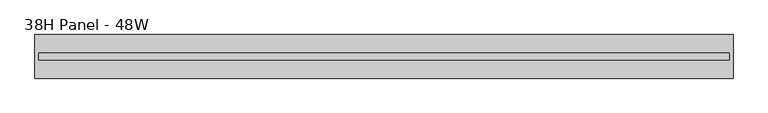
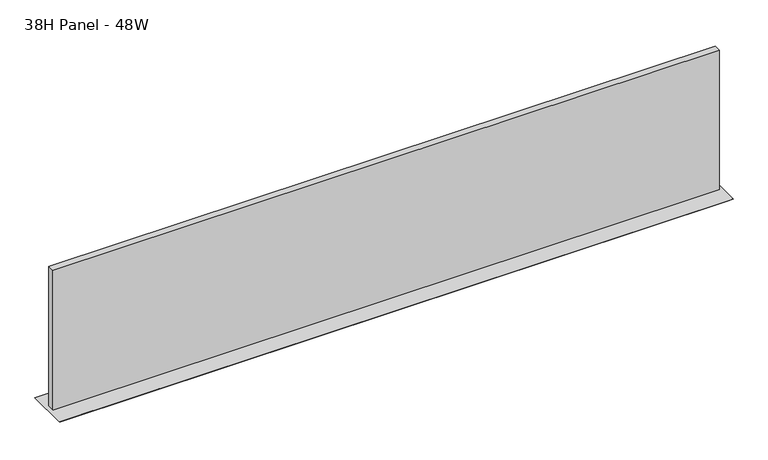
"""IFC4 building model written with IfcOpenShell, lengths in millimetres: furniture geometry, Steelcase - Montage - Tiles - 10H - Frameless Glass Stacker : 38H Panel - 48W."""

from ifc_helpers import new_model, si_unit, frame, origin, place, context, project, spatial, polyline, outline, extrude, faceted_brep, source, transform, mapped, element, save


def furniture_38h_panel_48w_17ceeb11(model_context):
    return source(origin(), model_context, "Body", "SolidModel", [
        faceted_brep([(1219.2, -38.1000015, 958.85), (0.0, -38.1000015, 958.85), (6.35, -31.7500015, 952.5), (1212.85, -31.7500015, 952.5), (6.35, 31.7500015, 952.5), (1212.85, 31.7500015, 952.5), (0.0, 38.1000015, 958.85), (1219.2, 38.1000015, 958.85)], [[[0, 1, 2, 3]], [[3, 2, 4, 5]], [[6, 7, 5, 4]], [[1, 0, 7, 6]], [[2, 1, 6, 4]], [[0, 3, 5, 7]]]),
        extrude(outline(polyline([(1212.4181828, -5.9944001), (6.7818001, -5.9944001), (6.7818001, 5.9944008), (1212.4181828, 5.9944008), (1212.4181828, -5.9944001)])), frame((0.0, 0.0, 958.85), z_axis=(0.0, 0.0, 1.0), x_axis=(1.0, 0.0, 0.0)), (0.0, 0.0, 1.0), 267.7160475),
    ])


if __name__ == "__main__":
    model = new_model("IFC4")
    model_context = context("Model", 3, world=origin())
    ifc_project = project(units=[si_unit("LENGTHUNIT", "METRE", prefix="MILLI")], contexts=[model_context])
    site = spatial("IfcSite", under=ifc_project)
    building = spatial("IfcBuilding", under=site)
    placement = place(None, origin())
    furniture_38h_panel_48w_shape = furniture_38h_panel_48w_17ceeb11(model_context)
    element("IfcFurniture", 1, ObjectType="Steelcase - Montage - Tiles - 10H - Frameless Glass Stacker : 38H Panel - 48W", at=placement, inside=building, context=model_context, shape_type="MappedRepresentation", body=[
        mapped(furniture_38h_panel_48w_shape, transform((0.0, 0.0, 0.0), x_axis=(1.0, 0.0, 0.0), y_axis=(0.0, 1.0, 0.0), z_axis=(0.0, 0.0, 1.0))),
    ])
    save(model, "model.ifc")
